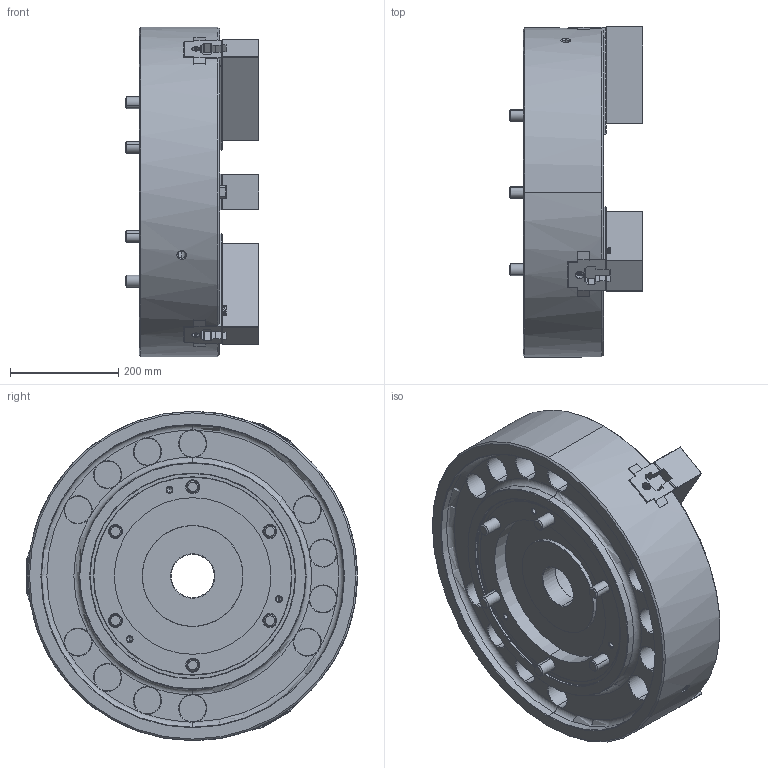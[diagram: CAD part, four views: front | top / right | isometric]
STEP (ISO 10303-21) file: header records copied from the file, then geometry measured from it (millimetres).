
FILE_DESCRIPTION (( 'STEP AP214' ), '1' );
FILE_NAME ('B-24_61P254134.STEP', '2025-04-03T08:08:53', ( '' ), ( '' ), 'SwSTEP 2.0', 'SolidWorks 2022', '' );
FILE_SCHEMA (( 'AUTOMOTIVE_DESIGN' ));
Length unit declared in the file: millimetre
Products named in the file (5): B-24_61P254134; Part14^B-24_61P254134; 61P405602; P32262; 0030120060
Assembly tree (13 placements, depth 2):
  B-24_61P254134
    P32262  x3
    61P405602  x3
    0030120060  x6
    Part14^B-24_61P254134
Bounding box: 248 x 612.5 x 610 mm (x, y, z)
Volume: 36905465.8 mm3; surface area: 1819425.6 mm2
Topology: 13 solids, 34 shells, 8450 faces, 24005 edges, 15823 vertices
Faces by surface type: plane 5287, cylinder 1596, bspline 995, cone 494, torus 72, sphere 6
Entity records: 248002 total; most frequent: CARTESIAN_POINT 81050, ORIENTED_EDGE 38134, DIRECTION 29402, EDGE_CURVE 19067, LINE 13740, VECTOR 13740, VERTEX_POINT 12580, AXIS2_PLACEMENT_3D 7831
